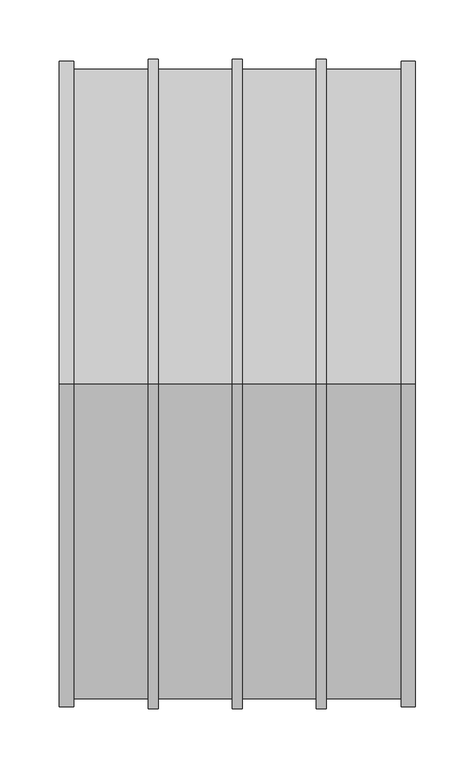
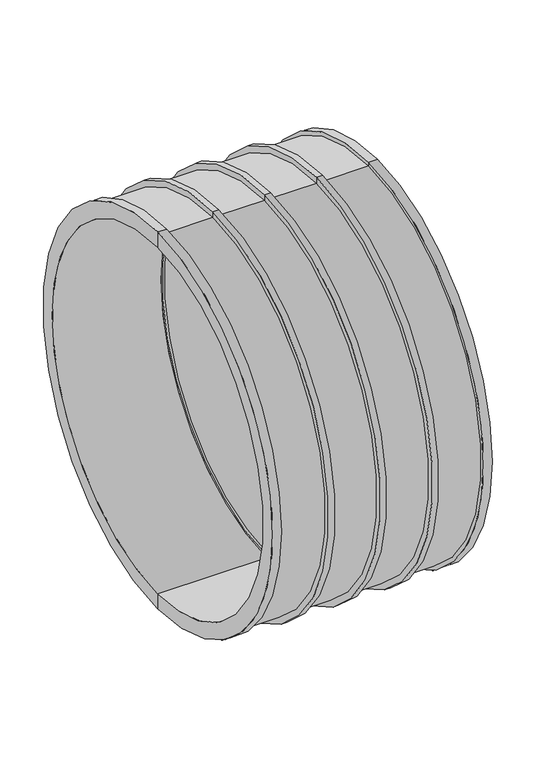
"""IFC4 building model written with IfcOpenShell, lengths in millimetres: pipe fitting geometry, Plumbing_Pipe-Fittings_Plasson_Super-LightFit_4601S3 : Plumbing_Pipe-Fittings_Plasson_Super-LightFit_4601S3."""

from ifc_helpers import new_model, si_unit, frame, origin, place, context, project, spatial, polyline, circle_curve, source, transform, mapped, element, save
from ifc_brep_helpers import plane_surface, cylinder_surface, revolved_surface, advanced_brep


def pipe_fitting_ae31b29e(model_context):
    return source(origin(), model_context, "Body", "AdvancedBrep", [
        advanced_brep(
        [(-1.5, 0.0, -250.0), (-1.5, 0.0, 250.0), (-150.0, 0.0, 250.0), (-150.0, 0.0, -250.0), (-1.5, 0.0, -247.0), (-1.5, 0.0, 247.0), (1.5, 0.0, -247.0), (1.5, 0.0, 247.0), (1.5, 0.0, -250.0), (1.5, 0.0, 250.0), (150.0, 0.0, -250.0), (150.0, 0.0, 250.0), (150.0, 0.0, -272.0), (150.0, 0.0, 272.0), (138.0, 0.0, -272.0), (138.0, 0.0, 272.0), (138.0, 0.0, -266.6666667), (138.0, 0.0, 266.6666667), (75.0, 0.0, -275.0), (75.0, 0.0, 275.0), (75.0, 0.0, 266.6666667), (75.0, 0.0, -266.6666667), (-138.0, 0.0, -266.6666667), (-138.0, 0.0, 266.6666667), (-75.0, 0.0, 266.6666667), (-75.0, 0.0, -266.6666667), (-138.0, 0.0, -272.0), (-138.0, 0.0, 272.0), (-150.0, 0.0, -272.0), (-150.0, 0.0, 272.0), (66.6666667, 0.0, -275.0), (66.6666667, 0.0, 275.0), (66.6666667, 0.0, -266.6666667), (66.6666667, 0.0, 266.6666667), (4.1666667, 0.0, -266.6666667), (4.1666667, 0.0, 266.6666667), (4.1666667, 0.0, -275.0), (4.1666667, 0.0, 275.0), (-4.1666667, 0.0, -275.0), (-4.1666667, 0.0, 275.0), (-4.1666667, 0.0, -266.6666667), (-4.1666667, 0.0, 266.6666667), (-66.6666667, 0.0, -266.6666667), (-66.6666667, 0.0, 266.6666667), (-66.6666667, 0.0, -275.0), (-66.6666667, 0.0, 275.0), (-75.0, 0.0, -275.0), (-75.0, 0.0, 275.0)],
        [
            (0, 1, circle_curve(frame((-1.5, 0.0, 0.0), z_axis=(1.0, 0.0, 0.0), x_axis=(0.0, 0.0, 1.0)), 250.0)),
            (1, 2),
            (2, 3, circle_curve(frame((-150.0, 0.0, 0.0), z_axis=(-1.0, 0.0, 0.0), x_axis=(0.0, 0.0, 1.0)), 250.0)),
            (3, 0),
            (1, 0, circle_curve(frame((-1.5, 0.0, 0.0), z_axis=(1.0, 0.0, 0.0), x_axis=(0.0, 0.0, 1.0)), 250.0)),
            (3, 2, circle_curve(frame((-150.0, 0.0, 0.0), z_axis=(-1.0, 0.0, 0.0), x_axis=(0.0, 0.0, 1.0)), 250.0)),
            (4, 5, circle_curve(frame((-1.5, 0.0, 0.0), z_axis=(1.0, 0.0, 0.0), x_axis=(0.0, 0.0, 1.0)), 247.0)),
            (5, 1),
            (0, 4),
            (5, 4, circle_curve(frame((-1.5, 0.0, 0.0), z_axis=(1.0, 0.0, 0.0), x_axis=(0.0, 0.0, 1.0)), 247.0)),
            (6, 7, circle_curve(frame((1.5, 0.0, 0.0), z_axis=(1.0, 0.0, 0.0), x_axis=(0.0, 0.0, 1.0)), 247.0)),
            (7, 5),
            (4, 6),
            (7, 6, circle_curve(frame((1.5, 0.0, 0.0), z_axis=(1.0, 0.0, 0.0), x_axis=(0.0, 0.0, 1.0)), 247.0)),
            (8, 9, circle_curve(frame((1.5, 0.0, 0.0), z_axis=(1.0, 0.0, 0.0), x_axis=(0.0, 0.0, 1.0)), 250.0)),
            (9, 7),
            (6, 8),
            (9, 8, circle_curve(frame((1.5, 0.0, 0.0), z_axis=(1.0, 0.0, 0.0), x_axis=(0.0, 0.0, 1.0)), 250.0)),
            (10, 11, circle_curve(frame((150.0, 0.0, 0.0), z_axis=(1.0, 0.0, 0.0), x_axis=(0.0, 0.0, 1.0)), 250.0)),
            (11, 9),
            (8, 10),
            (11, 10, circle_curve(frame((150.0, 0.0, 0.0), z_axis=(1.0, 0.0, 0.0), x_axis=(0.0, 0.0, 1.0)), 250.0)),
            (12, 13, circle_curve(frame((150.0, 0.0, 0.0), z_axis=(1.0, 0.0, 0.0), x_axis=(0.0, 0.0, 1.0)), 272.0)),
            (13, 11),
            (10, 12),
            (13, 12, circle_curve(frame((150.0, 0.0, 0.0), z_axis=(1.0, 0.0, 0.0), x_axis=(0.0, 0.0, 1.0)), 272.0)),
            (14, 15, circle_curve(frame((138.0, 0.0, 0.0), z_axis=(1.0, 0.0, 0.0), x_axis=(0.0, 0.0, 1.0)), 272.0)),
            (15, 13),
            (12, 14),
            (15, 14, circle_curve(frame((138.0, 0.0, 0.0), z_axis=(1.0, 0.0, 0.0), x_axis=(0.0, 0.0, 1.0)), 272.0)),
            (16, 17, circle_curve(frame((138.0, 0.0, 0.0), z_axis=(1.0, 0.0, 0.0), x_axis=(0.0, 0.0, 1.0)), 266.6666667)),
            (17, 15),
            (14, 16),
            (17, 16, circle_curve(frame((138.0, 0.0, 0.0), z_axis=(1.0, 0.0, 0.0), x_axis=(0.0, 0.0, 1.0)), 266.6666667)),
            (18, 19, circle_curve(frame((75.0, 0.0, 0.0), z_axis=(1.0, 0.0, 0.0), x_axis=(0.0, 0.0, 1.0)), 275.0)),
            (19, 20),
            (20, 21, circle_curve(frame((75.0, 0.0, 0.0), z_axis=(-1.0, 0.0, 0.0), x_axis=(0.0, 0.0, 1.0)), 266.6666667)),
            (21, 18),
            (19, 18, circle_curve(frame((75.0, 0.0, 0.0), z_axis=(1.0, 0.0, 0.0), x_axis=(0.0, 0.0, 1.0)), 275.0)),
            (21, 20, circle_curve(frame((75.0, 0.0, 0.0), z_axis=(-1.0, 0.0, 0.0), x_axis=(0.0, 0.0, 1.0)), 266.6666667)),
            (22, 23, circle_curve(frame((-138.0, 0.0, 0.0), z_axis=(1.0, 0.0, 0.0), x_axis=(0.0, 0.0, 1.0)), 266.6666667)),
            (23, 24),
            (24, 25, circle_curve(frame((-75.0, 0.0, 0.0), z_axis=(-1.0, 0.0, 0.0), x_axis=(0.0, 0.0, 1.0)), 266.6666667)),
            (25, 22),
            (23, 22, circle_curve(frame((-138.0, 0.0, 0.0), z_axis=(1.0, 0.0, 0.0), x_axis=(0.0, 0.0, 1.0)), 266.6666667)),
            (25, 24, circle_curve(frame((-75.0, 0.0, 0.0), z_axis=(-1.0, 0.0, 0.0), x_axis=(0.0, 0.0, 1.0)), 266.6666667)),
            (26, 27, circle_curve(frame((-138.0, 0.0, 0.0), z_axis=(1.0, 0.0, 0.0), x_axis=(0.0, 0.0, 1.0)), 272.0)),
            (27, 23),
            (22, 26),
            (27, 26, circle_curve(frame((-138.0, 0.0, 0.0), z_axis=(1.0, 0.0, 0.0), x_axis=(0.0, 0.0, 1.0)), 272.0)),
            (28, 29, circle_curve(frame((-150.0, 0.0, 0.0), z_axis=(1.0, 0.0, 0.0), x_axis=(0.0, 0.0, 1.0)), 272.0)),
            (29, 27),
            (26, 28),
            (29, 28, circle_curve(frame((-150.0, 0.0, 0.0), z_axis=(1.0, 0.0, 0.0), x_axis=(0.0, 0.0, 1.0)), 272.0)),
            (2, 29),
            (28, 3),
            (20, 17),
            (16, 21),
            (30, 31, circle_curve(frame((66.6666667, 0.0, 0.0), z_axis=(1.0, 0.0, 0.0), x_axis=(0.0, 0.0, 1.0)), 275.0)),
            (31, 19),
            (18, 30),
            (31, 30, circle_curve(frame((66.6666667, 0.0, 0.0), z_axis=(1.0, 0.0, 0.0), x_axis=(0.0, 0.0, 1.0)), 275.0)),
            (32, 33, circle_curve(frame((66.6666667, 0.0, 0.0), z_axis=(1.0, 0.0, 0.0), x_axis=(0.0, 0.0, 1.0)), 266.6666667)),
            (33, 31),
            (30, 32),
            (33, 32, circle_curve(frame((66.6666667, 0.0, 0.0), z_axis=(1.0, 0.0, 0.0), x_axis=(0.0, 0.0, 1.0)), 266.6666667)),
            (34, 35, circle_curve(frame((4.1666667, 0.0, 0.0), z_axis=(1.0, 0.0, 0.0), x_axis=(0.0, 0.0, 1.0)), 266.6666667)),
            (35, 33),
            (32, 34),
            (35, 34, circle_curve(frame((4.1666667, 0.0, 0.0), z_axis=(1.0, 0.0, 0.0), x_axis=(0.0, 0.0, 1.0)), 266.6666667)),
            (36, 37, circle_curve(frame((4.1666667, 0.0, 0.0), z_axis=(1.0, 0.0, 0.0), x_axis=(0.0, 0.0, 1.0)), 275.0)),
            (37, 35),
            (34, 36),
            (37, 36, circle_curve(frame((4.1666667, 0.0, 0.0), z_axis=(1.0, 0.0, 0.0), x_axis=(0.0, 0.0, 1.0)), 275.0)),
            (38, 39, circle_curve(frame((-4.1666667, 0.0, 0.0), z_axis=(1.0, 0.0, 0.0), x_axis=(0.0, 0.0, 1.0)), 275.0)),
            (39, 37),
            (36, 38),
            (39, 38, circle_curve(frame((-4.1666667, 0.0, 0.0), z_axis=(1.0, 0.0, 0.0), x_axis=(0.0, 0.0, 1.0)), 275.0)),
            (40, 41, circle_curve(frame((-4.1666667, 0.0, 0.0), z_axis=(1.0, 0.0, 0.0), x_axis=(0.0, 0.0, 1.0)), 266.6666667)),
            (41, 39),
            (38, 40),
            (41, 40, circle_curve(frame((-4.1666667, 0.0, 0.0), z_axis=(1.0, 0.0, 0.0), x_axis=(0.0, 0.0, 1.0)), 266.6666667)),
            (42, 43, circle_curve(frame((-66.6666667, 0.0, 0.0), z_axis=(1.0, 0.0, 0.0), x_axis=(0.0, 0.0, 1.0)), 266.6666667)),
            (43, 41),
            (40, 42),
            (43, 42, circle_curve(frame((-66.6666667, 0.0, 0.0), z_axis=(1.0, 0.0, 0.0), x_axis=(0.0, 0.0, 1.0)), 266.6666667)),
            (44, 45, circle_curve(frame((-66.6666667, 0.0, 0.0), z_axis=(1.0, 0.0, 0.0), x_axis=(0.0, 0.0, 1.0)), 275.0)),
            (45, 43),
            (42, 44),
            (45, 44, circle_curve(frame((-66.6666667, 0.0, 0.0), z_axis=(1.0, 0.0, 0.0), x_axis=(0.0, 0.0, 1.0)), 275.0)),
            (46, 47, circle_curve(frame((-75.0, 0.0, 0.0), z_axis=(1.0, 0.0, 0.0), x_axis=(0.0, 0.0, 1.0)), 275.0)),
            (47, 45),
            (44, 46),
            (47, 46, circle_curve(frame((-75.0, 0.0, 0.0), z_axis=(1.0, 0.0, 0.0), x_axis=(0.0, 0.0, 1.0)), 275.0)),
            (24, 47),
            (46, 25),
        ],
        [
            revolved_surface(polyline([(-150.0, 0.0, 250.0), (-1.5, 0.0, 250.0)]), (-150.0, 0.0, 0.0), (-1.0, 0.0, 0.0)),
            plane_surface(frame((-1.5, 0.0, 0.0), z_axis=(-1.0, 0.0, 0.0), x_axis=(0.0, 0.0, 1.0))),
            revolved_surface(polyline([(-1.5, 0.0, 247.0), (1.5, 0.0, 247.0)]), (-150.0, 0.0, 0.0), (-1.0, 0.0, 0.0)),
            plane_surface(frame((1.5, 0.0, 0.0), z_axis=(1.0, 0.0, 0.0), x_axis=(0.0, 0.0, 1.0))),
            revolved_surface(polyline([(1.5, 0.0, 250.0), (150.0, 0.0, 250.0)]), (-150.0, 0.0, 0.0), (-1.0, 0.0, 0.0)),
            plane_surface(frame((150.0, 0.0, 0.0), z_axis=(1.0, 0.0, 0.0), x_axis=(0.0, 0.0, 1.0))),
            cylinder_surface(frame((-150.0, 0.0, 0.0), z_axis=(-1.0, 0.0, 0.0), x_axis=(0.0, 0.0, 1.0)), 272.0),
            plane_surface(frame((138.0, 0.0, 0.0), z_axis=(-1.0, 0.0, 0.0), x_axis=(0.0, 0.0, 1.0))),
            plane_surface(frame((75.0, 0.0, 0.0), z_axis=(1.0, 0.0, 0.0), x_axis=(0.0, 0.0, 1.0))),
            cylinder_surface(frame((-150.0, 0.0, 0.0), z_axis=(-1.0, 0.0, 0.0), x_axis=(0.0, 0.0, 1.0)), 266.6666667),
            plane_surface(frame((-138.0, 0.0, 0.0), z_axis=(1.0, 0.0, 0.0), x_axis=(0.0, 0.0, 1.0))),
            plane_surface(frame((-150.0, 0.0, 0.0), z_axis=(-1.0, 0.0, 0.0), x_axis=(0.0, 0.0, 1.0))),
            cylinder_surface(frame((-150.0, 0.0, 0.0), z_axis=(-1.0, 0.0, 0.0), x_axis=(0.0, 0.0, 1.0)), 275.0),
            plane_surface(frame((66.6666667, 0.0, 0.0), z_axis=(-1.0, 0.0, 0.0), x_axis=(0.0, 0.0, 1.0))),
            plane_surface(frame((4.1666667, 0.0, 0.0), z_axis=(1.0, 0.0, 0.0), x_axis=(0.0, 0.0, 1.0))),
            plane_surface(frame((-4.1666667, 0.0, 0.0), z_axis=(-1.0, 0.0, 0.0), x_axis=(0.0, 0.0, 1.0))),
            plane_surface(frame((-66.6666667, 0.0, 0.0), z_axis=(1.0, 0.0, 0.0), x_axis=(0.0, 0.0, 1.0))),
            plane_surface(frame((-75.0, 0.0, 0.0), z_axis=(-1.0, 0.0, 0.0), x_axis=(0.0, 0.0, 1.0))),
        ],
        [
            (0, [[1, 2, 3, 4]]),
            (0, [[5, -4, 6, -2]]),
            (1, [[7, 8, -1, 9]]),
            (1, [[10, -9, -5, -8]]),
            (2, [[11, 12, -7, 13]]),
            (2, [[14, -13, -10, -12]]),
            (3, [[15, 16, -11, 17]]),
            (3, [[18, -17, -14, -16]]),
            (4, [[19, 20, -15, 21]]),
            (4, [[22, -21, -18, -20]]),
            (5, [[23, 24, -19, 25]]),
            (5, [[26, -25, -22, -24]]),
            (6, [[27, 28, -23, 29]]),
            (6, [[30, -29, -26, -28]]),
            (7, [[31, 32, -27, 33]]),
            (7, [[34, -33, -30, -32]]),
            (8, [[35, 36, 37, 38]]),
            (8, [[39, -38, 40, -36]]),
            (9, [[41, 42, 43, 44]]),
            (9, [[45, -44, 46, -42]]),
            (10, [[47, 48, -41, 49]]),
            (10, [[50, -49, -45, -48]]),
            (6, [[51, 52, -47, 53]]),
            (6, [[54, -53, -50, -52]]),
            (11, [[-3, 55, -51, 56]]),
            (11, [[-6, -56, -54, -55]]),
            (9, [[-37, 57, -31, 58]]),
            (9, [[-40, -58, -34, -57]]),
            (12, [[59, 60, -35, 61]]),
            (12, [[62, -61, -39, -60]]),
            (13, [[63, 64, -59, 65]]),
            (13, [[66, -65, -62, -64]]),
            (9, [[67, 68, -63, 69]]),
            (9, [[70, -69, -66, -68]]),
            (14, [[71, 72, -67, 73]]),
            (14, [[74, -73, -70, -72]]),
            (12, [[75, 76, -71, 77]]),
            (12, [[78, -77, -74, -76]]),
            (15, [[79, 80, -75, 81]]),
            (15, [[82, -81, -78, -80]]),
            (9, [[83, 84, -79, 85]]),
            (9, [[86, -85, -82, -84]]),
            (16, [[87, 88, -83, 89]]),
            (16, [[90, -89, -86, -88]]),
            (12, [[91, 92, -87, 93]]),
            (12, [[94, -93, -90, -92]]),
            (17, [[-43, 95, -91, 96]]),
            (17, [[-46, -96, -94, -95]]),
        ],
    ),
    ])


if __name__ == "__main__":
    model = new_model("IFC4")
    model_context = context("Model", 3, world=origin())
    ifc_project = project(units=[si_unit("LENGTHUNIT", "METRE", prefix="MILLI")], contexts=[model_context])
    site = spatial("IfcSite", under=ifc_project)
    building = spatial("IfcBuilding", under=site)
    placement = place(None, origin())
    pipe_fitting_shape = pipe_fitting_ae31b29e(model_context)
    element("IfcPipeFitting", 1, ObjectType="Plumbing_Pipe-Fittings_Plasson_Super-LightFit_4601S3 : Plumbing_Pipe-Fittings_Plasson_Super-LightFit_4601S3", at=placement, inside=building, context=model_context, shape_type="MappedRepresentation", body=[
        mapped(pipe_fitting_shape, transform((0.0, 0.0, 0.0), x_axis=(1.0, 0.0, 0.0), y_axis=(0.0, 1.0, 0.0), z_axis=(0.0, 0.0, 1.0))),
    ])
    save(model, "model.ifc")
